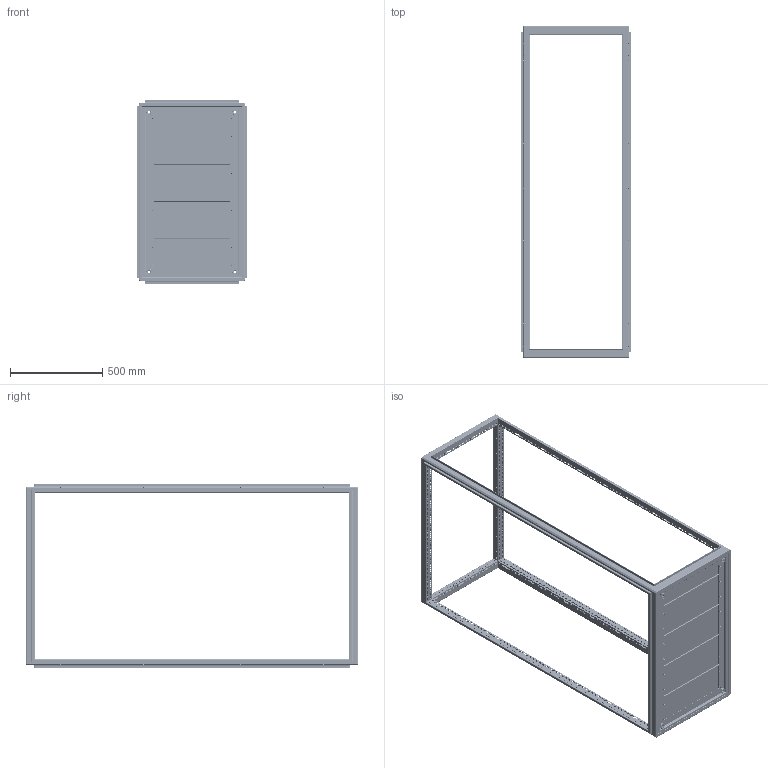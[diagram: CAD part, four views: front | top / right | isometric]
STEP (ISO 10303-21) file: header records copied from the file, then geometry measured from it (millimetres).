
FILE_DESCRIPTION(('STEP AP242'), '1');
FILE_NAME('ÊÑÊ.PRO.S.180.60.100 Êàðêàñ_ñåêöèîíèðîâàíèå', '', ('UNSPECIFIED'), ('UNSPECIFIED'), 'C3D Converter', 'C3D Toolkit', '');
FILE_SCHEMA(('AP242_MANAGED_MODEL_BASED_3D_ENGINEERING_MIM_LF { 1 0 10303 442 1 1 4 }'));
Length unit declared in the file: millimetre
Products named in the file (11): КСК.PRO.S.180.60.100; КСК.PRO.60.100; КСК.PRO.180; КСК.PRO.S.180; 2007.60.175; 2008.60.200; 2007.60.75
Assembly tree (29 placements, depth 2):
  КСК.PRO.S.180.60.100
    КСК.PRO.60.100
    КСК.PRO.180
    КСК.PRO.60.100
    КСК.PRO.180
    КСК.PRO.S.180
    КСК.PRO.S.180
    2007.60.175
    2008.60.200  x3
    2007.60.75
    (unnamed)  x18
Bounding box: 597 x 1797 x 997 mm (x, y, z)
Volume: 3751853.9 mm3; surface area: 5061158.3 mm2
Topology: 29 solids, 29 shells, 9283 faces, 26205 edges, 17173 vertices
Faces by surface type: plane 6559, cylinder 2156, cone 384, bspline 108, torus 44, sphere 32
Full cylindrical faces by diameter (mm): 3.242 x56, 4.134 x148, 4.5 x1394, 4.8 x18, 6 x56, 7 x148, 10.106 x4, 13.835 x4, 14 x4, 21.545 x4
Entity records: 313367 total; most frequent: CARTESIAN_POINT 50434, ORIENTED_EDGE 45418, DIRECTION 44156, EDGE_CURVE 22709, LINE 18366, VECTOR 18366, EDGE_LOOP 16628, VERTEX_POINT 16243
